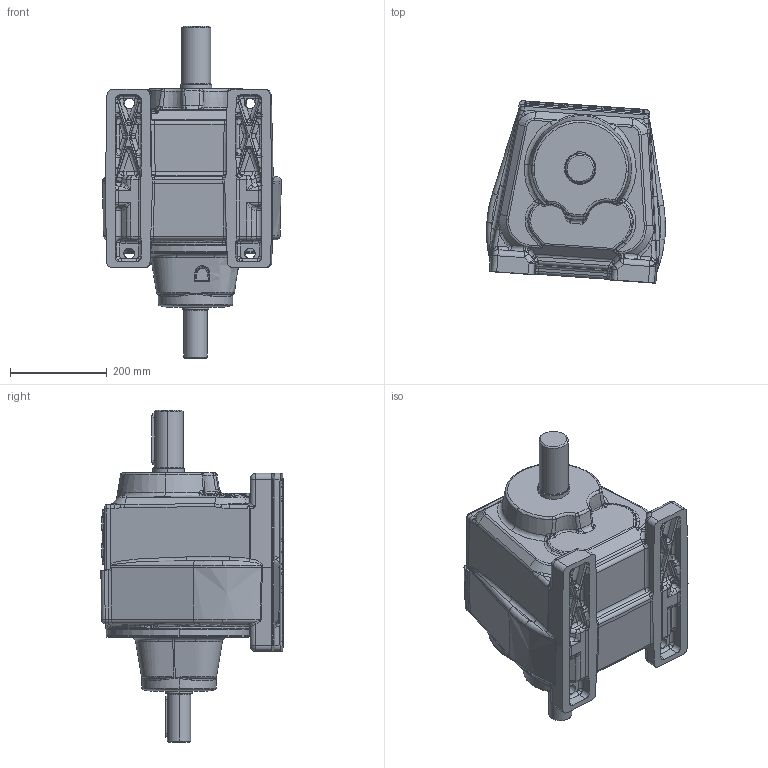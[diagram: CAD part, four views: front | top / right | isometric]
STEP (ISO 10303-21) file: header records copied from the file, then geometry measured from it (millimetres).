
FILE_DESCRIPTION (( 'STEP AP203' ), '1' );
FILE_NAME ('IRA 93.step', '2023-12-01T14:34:48', ( '' ), ( '' ), 'SwSTEP 2.0', 'SolidWorks 2022', '' );
FILE_SCHEMA (( 'CONFIG_CONTROL_DESIGN' ));
Products named in the file (4): Şase_Ø300; IRA 93-; M.suz Kapak İR93, İRK103, YP103, İRC93; IRA 93
Assembly tree (3 placements, depth 2):
  IRA 93
    Şase_Ø300
    IRA 93-
    M.suz Kapak İR93, İRK103, YP103, İRC93
Bounding box: 369.98 x 376.58 x 686 mm (x, y, z)
Volume: 36547366.3 mm3; surface area: 1091353.9 mm2
Topology: 3 solids, 3 shells, 1593 faces, 3986 edges, 2403 vertices
Faces by surface type: bspline 715, cylinder 446, plane 310, torus 52, cone 51, sphere 19
Entity records: 124210 total; most frequent: CARTESIAN_POINT 92078, ORIENTED_EDGE 7884, DIRECTION 4736, EDGE_CURVE 3942, VERTEX_POINT 2397, B_SPLINE_CURVE_WITH_KNOTS 1839, AXIS2_PLACEMENT_3D 1828, EDGE_LOOP 1677
